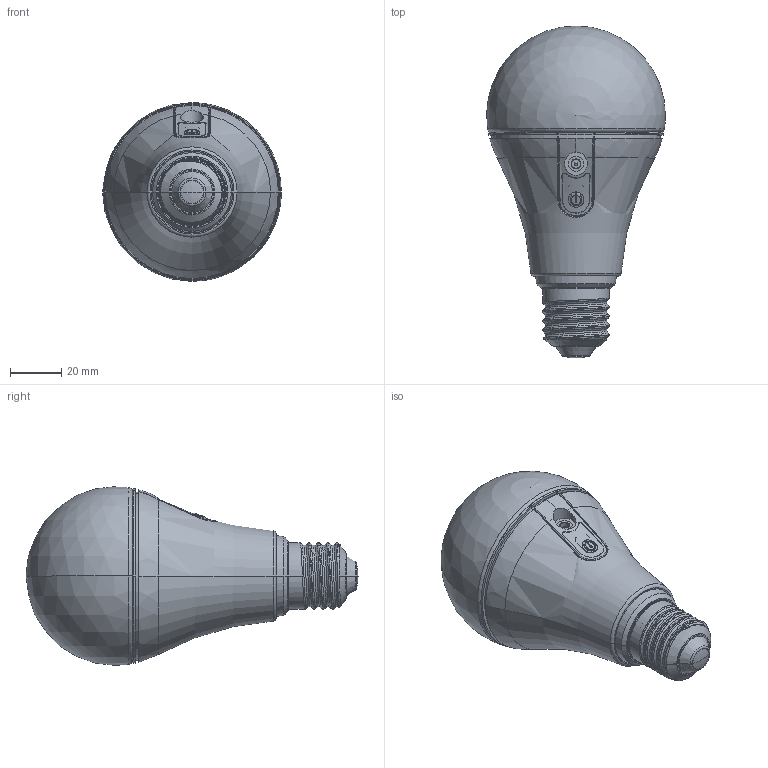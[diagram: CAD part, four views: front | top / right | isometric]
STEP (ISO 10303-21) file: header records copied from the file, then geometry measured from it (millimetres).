
FILE_DESCRIPTION (( 'STEP AP214' ), '1' );
FILE_NAME ('56630-Bulb assem-simple.STEP', '2020-03-19T06:24:21', ( '' ), ( '' ), 'SwSTEP 2.0', 'SolidWorks 2016', '' );
FILE_SCHEMA (( 'AUTOMOTIVE_DESIGN' ));
Length unit declared in the file: millimetre
Products named in the file (8): 56630-Bulb assem-simple; 56632-lamp cup; 56634-power box; 56650-DC Jack-3.5; 57793-Keyfoil-Bulb; 56634-power box+S+P+K.SLDPRT; 56633-A70-PC COVER; 56637-lamp cap-E27
Assembly tree (7 placements, depth 3):
  56630-Bulb assem-simple
    56632-lamp cup
    56634-power box+S+P+K.SLDPRT
      56634-power box
      56650-DC Jack-3.5
      57793-Keyfoil-Bulb
    56633-A70-PC COVER
    56637-lamp cap-E27
Bounding box: 69.99 x 130 x 70 mm (x, y, z)
Volume: 54142.4 mm3; surface area: 62173.9 mm2
Topology: 6 solids, 6 shells, 473 faces, 1211 edges, 771 vertices
Faces by surface type: plane 152, cylinder 123, cone 85, bspline 57, torus 40, sphere 16
Entity records: 58624 total; most frequent: CARTESIAN_POINT 46358, ORIENTED_EDGE 2402, DIRECTION 2074, EDGE_CURVE 1201, AXIS2_PLACEMENT_3D 836, VERTEX_POINT 765, EDGE_LOOP 506, FACE_OUTER_BOUND 473
